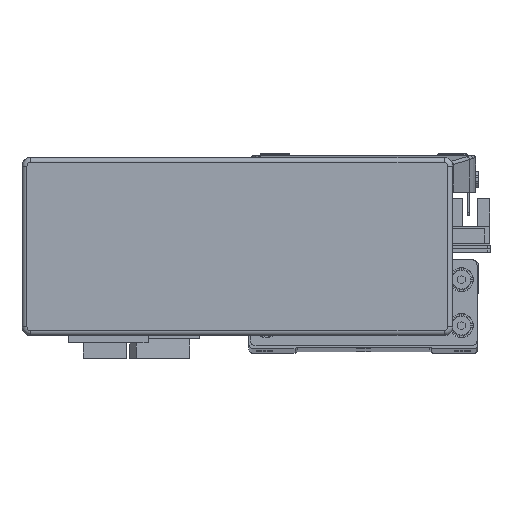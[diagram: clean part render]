
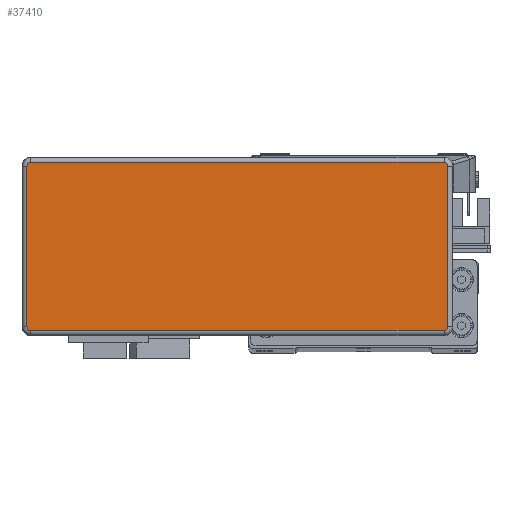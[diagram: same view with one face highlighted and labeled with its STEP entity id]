
A CAD part, top view. The second image highlights one B-rep face of the part: STEP entity #37410.
In plain terms, the highlighted planar face has unit normal (0, 0, 1) as drawn and (0, 0, -1) by its records, which use the part's own axes.
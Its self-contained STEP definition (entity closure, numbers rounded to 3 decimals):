
#4058 = AXIS2_PLACEMENT_3D ( 'NONE', #42413, #42416, #42445 ) ;
#4069 = AXIS2_PLACEMENT_3D ( 'NONE', #42442, #42461, #42456 ) ;
#4074 = AXIS2_PLACEMENT_3D ( 'NONE', #42198, #42262, #42237 ) ;
#4080 = AXIS2_PLACEMENT_3D ( 'NONE', #42424, #42393, #42398 ) ;
#5462 = AXIS2_PLACEMENT_3D ( 'NONE', #24842, #24838, #24858 ) ;
#8308 = FACE_OUTER_BOUND ( 'NONE', #11111, .T. ) ;
#11111 = EDGE_LOOP ( 'NONE', ( #19170, #19224, #19267, #19237, #19283, #19252, #19239, #19225 ) ) ;
#19170 = ORIENTED_EDGE ( 'NONE', *, *, #20688, .T. ) ;
#19224 = ORIENTED_EDGE ( 'NONE', *, *, #20680, .T. ) ;
#19225 = ORIENTED_EDGE ( 'NONE', *, *, #20672, .T. ) ;
#19237 = ORIENTED_EDGE ( 'NONE', *, *, #20660, .T. ) ;
#19239 = ORIENTED_EDGE ( 'NONE', *, *, #20640, .T. ) ;
#19252 = ORIENTED_EDGE ( 'NONE', *, *, #20600, .T. ) ;
#19267 = ORIENTED_EDGE ( 'NONE', *, *, #20598, .T. ) ;
#19283 = ORIENTED_EDGE ( 'NONE', *, *, #20716, .T. ) ;
#20598 = EDGE_CURVE ( 'NONE', #33356, #33290, #44472, .T. ) ;
#20600 = EDGE_CURVE ( 'NONE', #33309, #33380, #44462, .T. ) ;
#20640 = EDGE_CURVE ( 'NONE', #33380, #33283, #44555, .T. ) ;
#20660 = EDGE_CURVE ( 'NONE', #33290, #33307, #44581, .T. ) ;
#20672 = EDGE_CURVE ( 'NONE', #33283, #33198, #44613, .T. ) ;
#20680 = EDGE_CURVE ( 'NONE', #33187, #33356, #44570, .T. ) ;
#20688 = EDGE_CURVE ( 'NONE', #33198, #33187, #44561, .T. ) ;
#20716 = EDGE_CURVE ( 'NONE', #33307, #33309, #44643, .T. ) ;
#24024 = CARTESIAN_POINT ( 'NONE',  ( 73.295, -27.995, -32.2 ) ) ;
#24041 = CARTESIAN_POINT ( 'NONE',  ( 73.295, 27.995, -32.2 ) ) ;
#24090 = CARTESIAN_POINT ( 'NONE',  ( -73.295, -27.995, -32.2 ) ) ;
#24105 = CARTESIAN_POINT ( 'NONE',  ( 71.995, -29.295, -32.2 ) ) ;
#24117 = CARTESIAN_POINT ( 'NONE',  ( -71.995, 29.295, -32.2 ) ) ;
#24130 = CARTESIAN_POINT ( 'NONE',  ( 71.995, 29.295, -32.2 ) ) ;
#24138 = CARTESIAN_POINT ( 'NONE',  ( -71.995, -29.295, -32.2 ) ) ;
#24143 = CARTESIAN_POINT ( 'NONE',  ( -73.295, 27.995, -32.2 ) ) ;
#24825 = PLANE ( 'NONE',  #5462 ) ;
#24838 = DIRECTION ( 'NONE',  ( 0., 0., 1. ) ) ;
#24842 = CARTESIAN_POINT ( 'NONE',  ( 71.995, -27.995, -32.2 ) ) ;
#24858 = DIRECTION ( 'NONE',  ( 1., 0., 0. ) ) ;
#33187 = VERTEX_POINT ( 'NONE', #24024 ) ;
#33198 = VERTEX_POINT ( 'NONE', #24041 ) ;
#33283 = VERTEX_POINT ( 'NONE', #24130 ) ;
#33290 = VERTEX_POINT ( 'NONE', #24138 ) ;
#33307 = VERTEX_POINT ( 'NONE', #24090 ) ;
#33309 = VERTEX_POINT ( 'NONE', #24143 ) ;
#33356 = VERTEX_POINT ( 'NONE', #24105 ) ;
#33380 = VERTEX_POINT ( 'NONE', #24117 ) ;
#37410 = ADVANCED_FACE ( 'NONE', ( #8308 ), #24825, .F. ) ;
#42194 = DIRECTION ( 'NONE',  ( -1., 0., 0. ) ) ;
#42198 = CARTESIAN_POINT ( 'NONE',  ( -71.995, 27.995, -32.2 ) ) ;
#42224 = CARTESIAN_POINT ( 'NONE',  ( 71.995, -29.295, -32.2 ) ) ;
#42237 = DIRECTION ( 'NONE',  ( 1., 0., 0. ) ) ;
#42262 = DIRECTION ( 'NONE',  ( 0., 0., -1. ) ) ;
#42333 = DIRECTION ( 'NONE',  ( 1., 0., 0. ) ) ;
#42336 = CARTESIAN_POINT ( 'NONE',  ( 71.995, 29.295, -32.2 ) ) ;
#42393 = DIRECTION ( 'NONE',  ( 0., 0., -1. ) ) ;
#42398 = DIRECTION ( 'NONE',  ( 1., 0., 0. ) ) ;
#42413 = CARTESIAN_POINT ( 'NONE',  ( 71.995, 27.995, -32.2 ) ) ;
#42416 = DIRECTION ( 'NONE',  ( 0., 0., -1. ) ) ;
#42424 = CARTESIAN_POINT ( 'NONE',  ( -71.995, -27.995, -32.2 ) ) ;
#42442 = CARTESIAN_POINT ( 'NONE',  ( 71.995, -27.995, -32.2 ) ) ;
#42445 = DIRECTION ( 'NONE',  ( 1., 0., 0. ) ) ;
#42456 = DIRECTION ( 'NONE',  ( 1., 0., 0. ) ) ;
#42461 = DIRECTION ( 'NONE',  ( 0., 0., -1. ) ) ;
#42483 = CARTESIAN_POINT ( 'NONE',  ( 73.295, -27.995, -32.2 ) ) ;
#42515 = DIRECTION ( 'NONE',  ( 0., -1., 0. ) ) ;
#42550 = CARTESIAN_POINT ( 'NONE',  ( -73.295, -27.995, -32.2 ) ) ;
#42551 = DIRECTION ( 'NONE',  ( 0., 1., 0. ) ) ;
#44456 = VECTOR ( 'NONE', #42194, 1000. ) ;
#44462 = CIRCLE ( 'NONE', #4074, 1.3 ) ;
#44472 = LINE ( 'NONE', #42224, #44456 ) ;
#44526 = VECTOR ( 'NONE', #42333, 1000. ) ;
#44555 = LINE ( 'NONE', #42336, #44526 ) ;
#44561 = LINE ( 'NONE', #42483, #44588 ) ;
#44570 = CIRCLE ( 'NONE', #4069, 1.3 ) ;
#44581 = CIRCLE ( 'NONE', #4080, 1.3 ) ;
#44588 = VECTOR ( 'NONE', #42515, 1000. ) ;
#44613 = CIRCLE ( 'NONE', #4058, 1.3 ) ;
#44636 = VECTOR ( 'NONE', #42551, 1000. ) ;
#44643 = LINE ( 'NONE', #42550, #44636 ) ;
